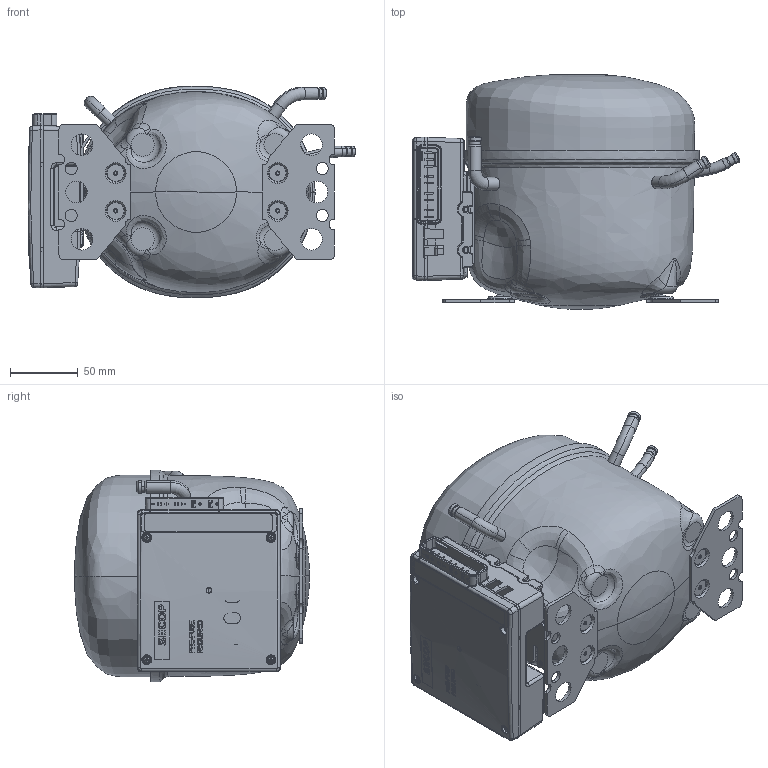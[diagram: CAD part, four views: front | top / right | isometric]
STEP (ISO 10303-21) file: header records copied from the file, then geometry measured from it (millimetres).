
FILE_DESCRIPTION((''),'2;1');
FILE_NAME('102Z3016_BD350GH_24V_MODEL_ASM','2013-09-23T',('SKHC2051'),(''),'PRO/ENGINEER BY PARAMETRIC TECHNOLOGY CORPORATION, 2012200','PRO/ENGINEER BY PARAMETRIC TECHNOLOGY CORPORATION, 2012200','');
FILE_SCHEMA(('CONFIG_CONTROL_DESIGN'));
Products named in the file (14): 102B1408_HOUS_BD350GH_90; 102B1507; 117-3617_BODY; 117-3617_PINS; 117-3617_GLASS_FUSED; 117-3617_ASM; 102B1451; 102B1276_HOUSE_ASSY_90_ASM; 102B1305_COVER_HIGH; 105B4260; 105B4190; 640N01043; 105A0139; 102Z3016_BD350GH_24V_MODEL_ASM
Assembly tree (21 placements, depth 4):
  102Z3016_BD350GH_24V_MODEL_ASM
    102B1276_HOUSE_ASSY_90_ASM
      102B1408_HOUS_BD350GH_90
      102B1507  x2
      117-3617_ASM
        117-3617_BODY
        117-3617_PINS  x3
        117-3617_GLASS_FUSED  x3
      102B1451
    102B1305_COVER_HIGH
    105B4260
    105B4190
    640N01043  x4
    105A0139
Bounding box: 242.79 x 174.03 x 156.88 mm (x, y, z)
Surface area: 353171.2 mm2 (no closed solid volume)
Topology: 0 solids, 20 shells, 4808 faces, 12235 edges, 7584 vertices
Faces by surface type: plane 2388, cylinder 971, bspline 803, cone 383, torus 160, sphere 79, revolution 12, extrusion 12
Entity records: 173886 total; most frequent: CARTESIAN_POINT 77837, ORIENTED_EDGE 22294, DIRECTION 16431, EDGE_CURVE 11147, VERTEX_POINT 6961, AXIS2_PLACEMENT_3D 5800, VECTOR 4827, LINE 4815
